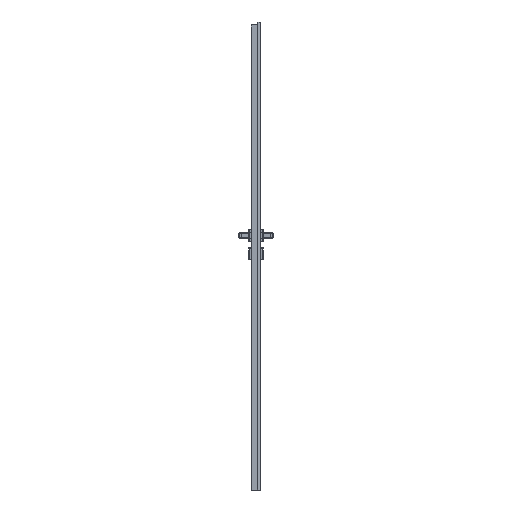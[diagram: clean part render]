
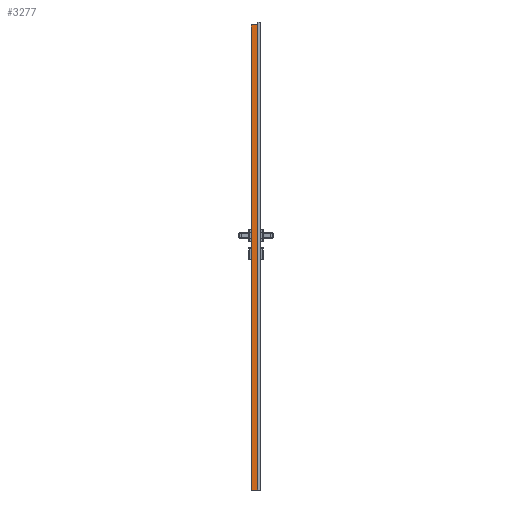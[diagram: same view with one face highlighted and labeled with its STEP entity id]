
A CAD part, left-side view. The second image highlights one B-rep face of the part: STEP entity #3277.
In plain terms, the highlighted planar face has unit normal (-1, 0, 0).
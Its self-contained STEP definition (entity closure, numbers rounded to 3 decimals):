
#3277=ADVANCED_FACE('',(#6570),#4738,.F.);
#4738=PLANE('',#39460);
#6570=FACE_OUTER_BOUND('',#8594,.T.);
#8594=EDGE_LOOP('',(#13803,#13804,#13805,#13806,#13807));
#13803=ORIENTED_EDGE('',*,*,#26277,.T.);
#13804=ORIENTED_EDGE('',*,*,#26257,.T.);
#13805=ORIENTED_EDGE('',*,*,#26278,.T.);
#13806=ORIENTED_EDGE('',*,*,#26272,.F.);
#13807=ORIENTED_EDGE('',*,*,#26269,.T.);
#21954=VERTEX_POINT('',#61883);
#21955=VERTEX_POINT('',#61885);
#21960=VERTEX_POINT('',#61901);
#21962=VERTEX_POINT('',#61916);
#21963=VERTEX_POINT('',#61920);
#26257=EDGE_CURVE('',#21954,#21955,#30820,.T.);
#26269=EDGE_CURVE('',#21960,#21962,#30827,.T.);
#26272=EDGE_CURVE('',#21960,#21963,#30830,.T.);
#26277=EDGE_CURVE('',#21962,#21954,#30834,.T.);
#26278=EDGE_CURVE('',#21955,#21963,#30835,.T.);
#30820=LINE('',#61886,#35035);
#30827=LINE('',#61917,#35042);
#30830=LINE('',#61923,#35045);
#30834=LINE('',#61932,#35049);
#30835=LINE('',#61933,#35050);
#35035=VECTOR('',#44761,1.);
#35042=VECTOR('',#44778,1.);
#35045=VECTOR('',#44783,1.);
#35049=VECTOR('',#44795,1.);
#35050=VECTOR('',#44796,1.);
#39460=AXIS2_PLACEMENT_3D('',#61934,#44797,#44798);
#44761=DIRECTION('',(0.,-0.894,-0.447));
#44778=DIRECTION('',(0.,1.,0.));
#44783=DIRECTION('',(0.,0.,-1.));
#44795=DIRECTION('',(0.,0.,-1.));
#44796=DIRECTION('',(0.,-1.,0.));
#44797=DIRECTION('',(1.,0.,0.));
#44798=DIRECTION('',(0.,0.,-1.));
#61883=CARTESIAN_POINT('',(-309.,0.,1.));
#61885=CARTESIAN_POINT('',(-309.,-2.,0.));
#61886=CARTESIAN_POINT('',(-309.,899.6,450.8));
#61901=CARTESIAN_POINT('',(-309.,-26.,2016.999));
#61916=CARTESIAN_POINT('',(-309.,0.,2016.999));
#61917=CARTESIAN_POINT('',(-309.,0.,2016.999));
#61920=CARTESIAN_POINT('',(-309.,-26.,0.));
#61923=CARTESIAN_POINT('',(-309.,-26.,2250.));
#61932=CARTESIAN_POINT('',(-309.,0.,2250.));
#61933=CARTESIAN_POINT('',(-309.,0.,0.));
#61934=CARTESIAN_POINT('',(-309.,0.,2250.));
